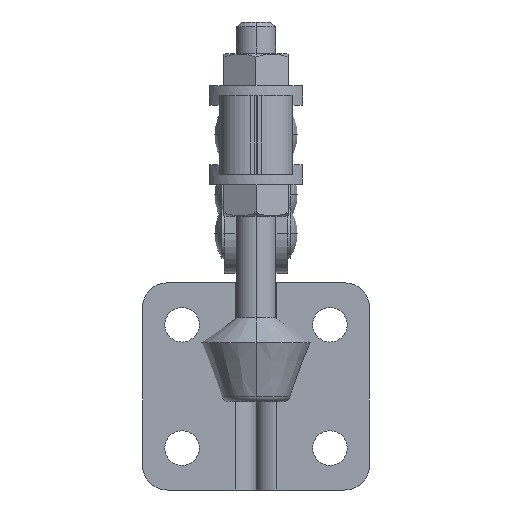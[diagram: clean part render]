
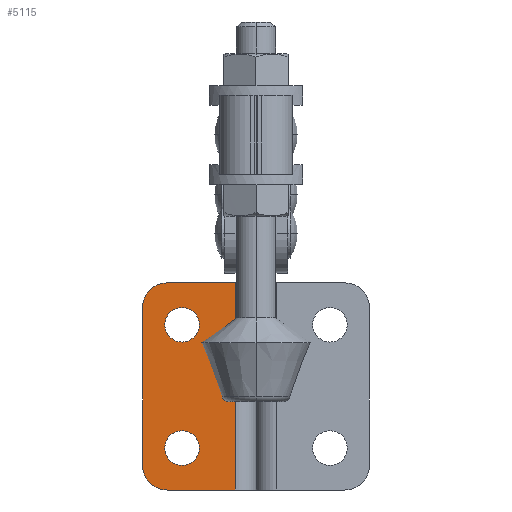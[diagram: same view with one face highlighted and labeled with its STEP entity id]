
A CAD part, left-side view. The second image highlights one B-rep face of the part: STEP entity #5115.
In plain terms, the highlighted planar face has unit normal (-1, 0, 0).
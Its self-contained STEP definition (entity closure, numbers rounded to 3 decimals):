
#4828=CARTESIAN_POINT('Cartesian Point',(62.664,23.,37.)) ;
#4844=CARTESIAN_POINT('Cartesian Point',(62.664,23.,5.)) ;
#4847=CARTESIAN_POINT('Line Origine',(62.664,23.,21.)) ;
#4948=CARTESIAN_POINT('Cartesian Point',(62.664,18.,42.)) ;
#4953=CARTESIAN_POINT('Line Origine',(62.664,11.1,42.)) ;
#4957=CARTESIAN_POINT('Cartesian Point',(62.664,4.2,42.)) ;
#5042=CARTESIAN_POINT('Axis2P3D Location',(62.664,23.,0.)) ;
#5047=CARTESIAN_POINT('Axis2P3D Location',(62.664,18.,5.)) ;
#5051=CARTESIAN_POINT('Cartesian Point',(62.664,18.,0.)) ;
#5054=CARTESIAN_POINT('Line Origine',(62.664,11.1,0.)) ;
#5058=CARTESIAN_POINT('Cartesian Point',(62.664,4.2,0.)) ;
#5061=CARTESIAN_POINT('Line Origine',(62.664,4.2,21.)) ;
#5066=CARTESIAN_POINT('Axis2P3D Location',(62.664,18.,37.)) ;
#5079=CARTESIAN_POINT('Axis2P3D Location',(62.664,15.,8.5)) ;
#5083=CARTESIAN_POINT('Cartesian Point',(62.664,15.,5.)) ;
#5085=CARTESIAN_POINT('Cartesian Point',(62.664,15.,12.)) ;
#5088=CARTESIAN_POINT('Axis2P3D Location',(62.664,15.,8.5)) ;
#5097=CARTESIAN_POINT('Axis2P3D Location',(62.664,15.,33.5)) ;
#5101=CARTESIAN_POINT('Cartesian Point',(62.664,15.,30.)) ;
#5103=CARTESIAN_POINT('Cartesian Point',(62.664,15.,37.)) ;
#5106=CARTESIAN_POINT('Axis2P3D Location',(62.664,15.,33.5)) ;
#4848=DIRECTION('Vector Direction',(0.,0.,1.)) ;
#4954=DIRECTION('Vector Direction',(0.,-1.,0.)) ;
#5043=DIRECTION('Axis2P3D Direction',(-1.,0.,0.)) ;
#5044=DIRECTION('Axis2P3D XDirection',(0.,0.,-1.)) ;
#5048=DIRECTION('Axis2P3D Direction',(-1.,0.,0.)) ;
#5055=DIRECTION('Vector Direction',(0.,1.,0.)) ;
#5062=DIRECTION('Vector Direction',(0.,0.,1.)) ;
#5067=DIRECTION('Axis2P3D Direction',(-1.,0.,0.)) ;
#5080=DIRECTION('Axis2P3D Direction',(-1.,0.,0.)) ;
#5089=DIRECTION('Axis2P3D Direction',(-1.,0.,0.)) ;
#5098=DIRECTION('Axis2P3D Direction',(-1.,0.,0.)) ;
#5107=DIRECTION('Axis2P3D Direction',(-1.,0.,0.)) ;
#5045=AXIS2_PLACEMENT_3D('Plane Axis2P3D',#5042,#5043,#5044) ;
#5049=AXIS2_PLACEMENT_3D('Circle Axis2P3D',#5047,#5048,$) ;
#5068=AXIS2_PLACEMENT_3D('Circle Axis2P3D',#5066,#5067,$) ;
#5081=AXIS2_PLACEMENT_3D('Circle Axis2P3D',#5079,#5080,$) ;
#5090=AXIS2_PLACEMENT_3D('Circle Axis2P3D',#5088,#5089,$) ;
#5099=AXIS2_PLACEMENT_3D('Circle Axis2P3D',#5097,#5098,$) ;
#5108=AXIS2_PLACEMENT_3D('Circle Axis2P3D',#5106,#5107,$) ;
#5072=ORIENTED_EDGE('Oriented Edge',*,*,#4851,.F.) ;
#5073=ORIENTED_EDGE('Oriented Edge',*,*,#5053,.F.) ;
#5074=ORIENTED_EDGE('Oriented Edge',*,*,#5060,.F.) ;
#5075=ORIENTED_EDGE('Oriented Edge',*,*,#5065,.T.) ;
#5076=ORIENTED_EDGE('Oriented Edge',*,*,#4959,.F.) ;
#5077=ORIENTED_EDGE('Oriented Edge',*,*,#5070,.T.) ;
#5094=ORIENTED_EDGE('Oriented Edge',*,*,#5087,.F.) ;
#5095=ORIENTED_EDGE('Oriented Edge',*,*,#5092,.F.) ;
#5112=ORIENTED_EDGE('Oriented Edge',*,*,#5105,.F.) ;
#5113=ORIENTED_EDGE('Oriented Edge',*,*,#5110,.F.) ;
#5096=FACE_BOUND('Face Bound',#5093,.T.) ;
#5114=FACE_BOUND('Face Bound',#5111,.T.) ;
#4849=VECTOR('Line Direction',#4848,1.) ;
#4955=VECTOR('Line Direction',#4954,1.) ;
#5056=VECTOR('Line Direction',#5055,1.) ;
#5063=VECTOR('Line Direction',#5062,1.) ;
#5115=ADVANCED_FACE('',(#5078,#5096,#5114),#5046,.T.) ;
#5050=CIRCLE('generated circle',#5049,5.) ;
#5069=CIRCLE('generated circle',#5068,5.) ;
#5082=CIRCLE('generated circle',#5081,3.5) ;
#5091=CIRCLE('generated circle',#5090,3.5) ;
#5100=CIRCLE('generated circle',#5099,3.5) ;
#5109=CIRCLE('generated circle',#5108,3.5) ;
#4851=EDGE_CURVE('',#4845,#4829,#4850,.T.) ;
#4959=EDGE_CURVE('',#4949,#4958,#4956,.T.) ;
#5053=EDGE_CURVE('',#5052,#4845,#5050,.F.) ;
#5060=EDGE_CURVE('',#5059,#5052,#5057,.T.) ;
#5065=EDGE_CURVE('',#5059,#4958,#5064,.T.) ;
#5070=EDGE_CURVE('',#4949,#4829,#5069,.T.) ;
#5087=EDGE_CURVE('',#5084,#5086,#5082,.T.) ;
#5092=EDGE_CURVE('',#5086,#5084,#5091,.T.) ;
#5105=EDGE_CURVE('',#5102,#5104,#5100,.T.) ;
#5110=EDGE_CURVE('',#5104,#5102,#5109,.T.) ;
#5071=EDGE_LOOP('Oriented Loop',(#5072,#5073,#5074,#5075,#5076,#5077)) ;
#5093=EDGE_LOOP('Oriented Loop',(#5094,#5095)) ;
#5111=EDGE_LOOP('Oriented Loop',(#5112,#5113)) ;
#5078=FACE_OUTER_BOUND('Face Bound',#5071,.T.) ;
#4850=LINE('Line',#4847,#4849) ;
#4956=LINE('Line',#4953,#4955) ;
#5057=LINE('Line',#5054,#5056) ;
#5064=LINE('Line',#5061,#5063) ;
#5046=PLANE('Plane',#5045) ;
#4829=VERTEX_POINT('Vertex Point',#4828) ;
#4845=VERTEX_POINT('Vertex Point',#4844) ;
#4949=VERTEX_POINT('Vertex Point',#4948) ;
#4958=VERTEX_POINT('Vertex Point',#4957) ;
#5052=VERTEX_POINT('Vertex Point',#5051) ;
#5059=VERTEX_POINT('Vertex Point',#5058) ;
#5084=VERTEX_POINT('Vertex Point',#5083) ;
#5086=VERTEX_POINT('Vertex Point',#5085) ;
#5102=VERTEX_POINT('Vertex Point',#5101) ;
#5104=VERTEX_POINT('Vertex Point',#5103) ;
